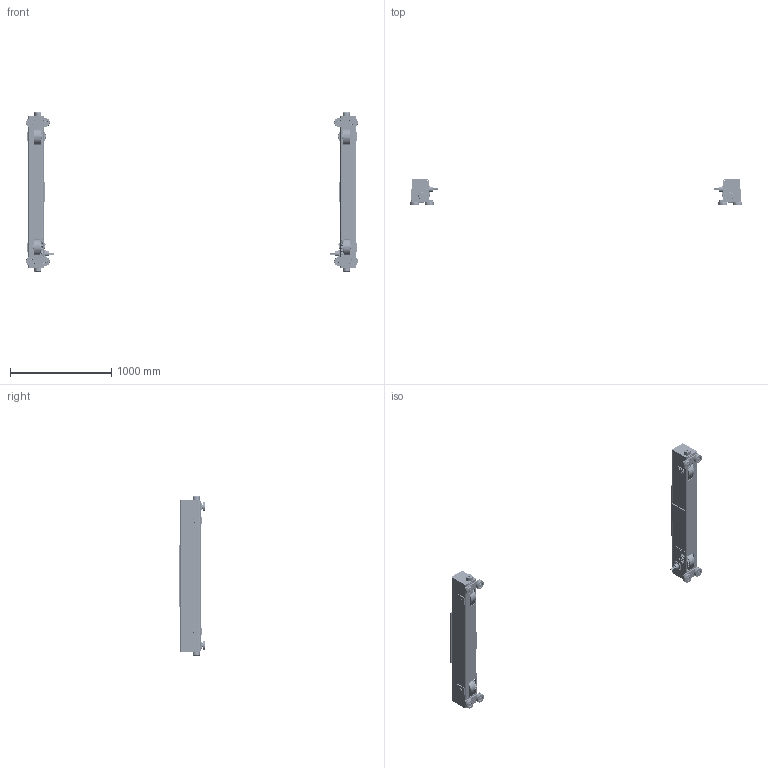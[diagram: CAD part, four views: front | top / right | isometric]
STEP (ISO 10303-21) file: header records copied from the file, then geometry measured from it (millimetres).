
FILE_DESCRIPTION (( 'STEP AP214' ), '1' );
FILE_NAME ('TG-3-0535.STEP', '2026-08-07T19:12:40', ( '' ), ( '' ), 'SwSTEP 2.0', 'SolidWorks 2026', '' );
FILE_SCHEMA (( 'AUTOMOTIVE_DESIGN' ));
Length unit declared in the file: inch
Products named in the file (56): 6240601_0535 - 25# RAIL; 6240805X_6240805B; J1WS011-10060_GB_FASTENER_WASHER_SW 6; 6240820; 6240301; N6QO7201101; 6240809; N6QO720E91311; T800-600-004_58.125; N6Q0720E9102; N6GO310V5303; 6240819; 9093328_9093328; 9000605; 6240810; T7G117030; 6240818; 6240808; N6QO720E91341; N6Q07201102; J1BE1-0602020_AS 1420 - M6 x 20-S; 9047242_9047242; 6240501_0535 - 25# RAIL; 9000504; N6Q0310E9108; 6240825; 6232404; 5204612; N6QL210207; 9000707; N6GO310V301; 6240812; TG-3-0535; 9047252_9047252; 9012514_9012514; N6QO720E91013; 9093101_9093101; N6GO310306; 6240816; 9047120_9047120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
Assembly tree (157 placements, depth 4):
  TG-3-0535
    6240501_0535 - 25# RAIL
      6240301
        T800-600-004_58.125
        6240820
        6240818
        6240819
        6240819
        6240819
      6240812  x2
      5204612
      T7G117030
      6240808
      6240809
      6240810
      6240817X_6240817B  x2
        6240805X_6240805B
        6232305
    6240601_0535 - 25# RAIL
      6240401
        T800-600-004_58.125
        6240820
        6240818
        6240819
        6240819
        6240819
      6240812  x2
      5204612
      T7G117030
      6240808
      6240809
      6240810
      6240817X_6240817B  x2
        6240805X_6240805B
        6232305
    N6Q03101108  x8
      N6Q0310E9108
      9047252_9047252
      9000605
    6232404  x8
    9047125_B27.7M - 3AM1-23  x8
    N6QL210207  x4
    9012514_9012514  x4
    9012711_9012711  x20
    9093101_9093101  x4
    6240816  x4
    6240825  x4
    9093327_9093327  x8
    N6Q07201102  x2
      N6Q0720E9102
      9000707
    N6QO7201101  x2
      N6QO720E91311
      N6QO720E91013
      9000707
      J1WS011-10060_GB_FASTENER_WASHER_SW 6
      J1BE1-0602020_AS 1420 - M6 x 20-S
      N6QO720E91341
    N6GO310V5303  x2
      N6GO310303
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Bounding box: 3281.85 x 261.94 x 1573.42 mm (x, y, z)
Volume: 25191391.8 mm3; surface area: 6697893.1 mm2
Topology: 176 solids, 256 shells, 14462 faces, 36996 edges, 23854 vertices
Faces by surface type: plane 7904, cylinder 3018, cone 1828, bspline 1448, torus 264
Entity records: 144629 total; most frequent: CARTESIAN_POINT 64943, ORIENTED_EDGE 16650, DIRECTION 13759, EDGE_CURVE 8331, VERTEX_POINT 5481, AXIS2_PLACEMENT_3D 4915, LINE 3929, VECTOR 3929
